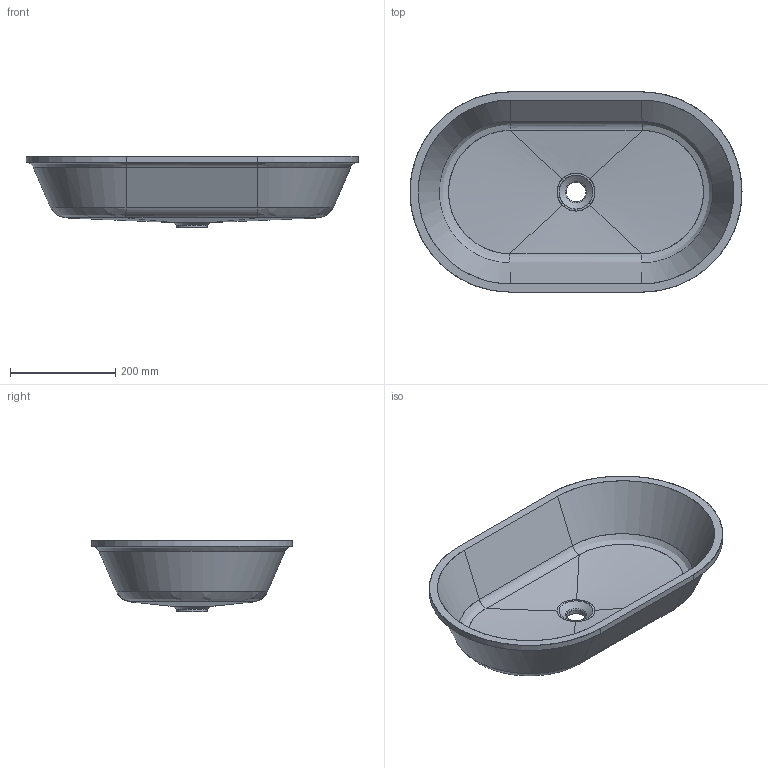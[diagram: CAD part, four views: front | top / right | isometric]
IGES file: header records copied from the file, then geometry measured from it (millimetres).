
Start section: Data from Parasolid IGES Translator 22.0.50, Copyright(c) 2006 Siemens P LM Software. All Rights Reserved.
Global section: file name: noorth-washbasin- D 65 W 37_5849.igs; native system: By Siemens PLM Incorporated; preprocessor: XPlus GENERIC/IGES 22.0.50; author: Noname; organization: Noname; date: 20240828.112815; units: metre
Bounding box: 630.12 x 380.12 x 136.43 mm (x, y, z)
Surface area: 636530.3 mm2 (no closed solid volume)
Topology: 0 solids, 0 shells, 50 faces, 290 edges, 281 vertices
Faces by surface type: bspline 32, extrusion 9, revolution 9
